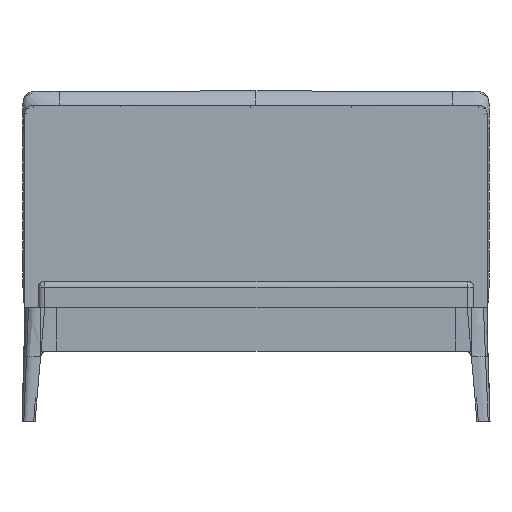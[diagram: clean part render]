
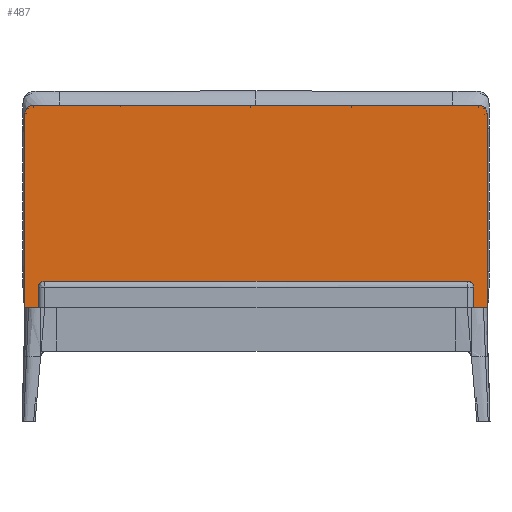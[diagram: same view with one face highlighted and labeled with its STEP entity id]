
A CAD part, front view. The second image highlights one B-rep face of the part: STEP entity #487.
In plain terms, the highlighted planar face has unit normal (0, -1, 0).
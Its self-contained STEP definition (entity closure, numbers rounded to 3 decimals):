
#487=ADVANCED_FACE('',(#1020),#7522,.T.);
#1020=FACE_OUTER_BOUND('',#1555,.T.);
#1555=EDGE_LOOP('',(#2912,#2913,#2914,#2915,#2916,#2917));
#2912=ORIENTED_EDGE('',*,*,#4764,.T.);
#2913=ORIENTED_EDGE('',*,*,#4719,.T.);
#2914=ORIENTED_EDGE('',*,*,#4715,.T.);
#2915=ORIENTED_EDGE('',*,*,#4761,.T.);
#2916=ORIENTED_EDGE('',*,*,#4744,.T.);
#2917=ORIENTED_EDGE('',*,*,#4747,.T.);
#4715=EDGE_CURVE('',#6890,#6889,#5498,.T.);
#4719=EDGE_CURVE('',#6891,#6890,#5502,.T.);
#4744=EDGE_CURVE('',#6907,#6909,#5516,.T.);
#4747=EDGE_CURVE('',#6909,#6910,#5519,.T.);
#4761=EDGE_CURVE('',#6889,#6907,#5982,.T.);
#4764=EDGE_CURVE('',#6910,#6891,#5985,.T.);
#5498=(
BOUNDED_CURVE()
B_SPLINE_CURVE(2,(#37031,#37032,#37033),.UNSPECIFIED.,.F.,.F.)
B_SPLINE_CURVE_WITH_KNOTS((3,3),(-12612.08,-11987.08),
 .UNSPECIFIED.)
CURVE()
GEOMETRIC_REPRESENTATION_ITEM()
RATIONAL_B_SPLINE_CURVE((1.,1.,1.))
REPRESENTATION_ITEM('')
);
#5502=(
BOUNDED_CURVE()
B_SPLINE_CURVE(2,(#37041,#37042,#37043),.UNSPECIFIED.,.F.,.F.)
B_SPLINE_CURVE_WITH_KNOTS((3,3),(-7600.81,-7561.54),
 .UNSPECIFIED.)
CURVE()
GEOMETRIC_REPRESENTATION_ITEM()
RATIONAL_B_SPLINE_CURVE((1.,0.707,1.))
REPRESENTATION_ITEM('')
);
#5516=(
BOUNDED_CURVE()
B_SPLINE_CURVE(2,(#37205,#37206,#37207),.UNSPECIFIED.,.F.,.F.)
B_SPLINE_CURVE_WITH_KNOTS((3,3),(-10101.08,-9476.08),
 .UNSPECIFIED.)
CURVE()
GEOMETRIC_REPRESENTATION_ITEM()
RATIONAL_B_SPLINE_CURVE((1.,1.,1.))
REPRESENTATION_ITEM('')
);
#5519=(
BOUNDED_CURVE()
B_SPLINE_CURVE(2,(#37213,#37214,#37215),.UNSPECIFIED.,.F.,.F.)
B_SPLINE_CURVE_WITH_KNOTS((3,3),(-9476.08,-9436.81),
 .UNSPECIFIED.)
CURVE()
GEOMETRIC_REPRESENTATION_ITEM()
RATIONAL_B_SPLINE_CURVE((1.,0.707,1.))
REPRESENTATION_ITEM('')
);
#5982=B_SPLINE_CURVE_WITH_KNOTS('',1,(#37260,#37261),.UNSPECIFIED.,.F.,
 .F.,(2,2),(0.,1486.),.UNSPECIFIED.);
#5985=B_SPLINE_CURVE_WITH_KNOTS('',1,(#37266,#37267),.UNSPECIFIED.,.F.,
 .F.,(2,2),(0.,1436.),.UNSPECIFIED.);
#6889=VERTEX_POINT('',#36967);
#6890=VERTEX_POINT('',#36968);
#6891=VERTEX_POINT('',#36969);
#6907=VERTEX_POINT('',#36985);
#6909=VERTEX_POINT('',#36987);
#6910=VERTEX_POINT('',#36988);
#7522=PLANE('',#7941);
#7941=AXIS2_PLACEMENT_3D('',#36953,#8291,$);
#8291=DIRECTION('',(0.,-1.,0.));
#36953=CARTESIAN_POINT('',(786.512,614.836,1080.));
#36967=CARTESIAN_POINT('',(-743.,614.836,365.));
#36968=CARTESIAN_POINT('',(-743.,614.836,990.));
#36969=CARTESIAN_POINT('',(-718.,614.836,1015.));
#36985=CARTESIAN_POINT('',(743.,614.836,365.));
#36987=CARTESIAN_POINT('',(743.,614.836,990.));
#36988=CARTESIAN_POINT('',(718.,614.836,1015.));
#37031=CARTESIAN_POINT('',(-743.,614.836,990.));
#37032=CARTESIAN_POINT('',(-743.,614.836,677.5));
#37033=CARTESIAN_POINT('',(-743.,614.836,365.));
#37041=CARTESIAN_POINT('',(-718.,614.836,1015.));
#37042=CARTESIAN_POINT('',(-743.,614.836,1015.));
#37043=CARTESIAN_POINT('',(-743.,614.836,990.));
#37205=CARTESIAN_POINT('',(743.,614.836,365.));
#37206=CARTESIAN_POINT('',(743.,614.836,677.5));
#37207=CARTESIAN_POINT('',(743.,614.836,990.));
#37213=CARTESIAN_POINT('',(743.,614.836,990.));
#37214=CARTESIAN_POINT('',(743.,614.836,1015.));
#37215=CARTESIAN_POINT('',(718.,614.836,1015.));
#37260=CARTESIAN_POINT('',(-743.,614.836,365.));
#37261=CARTESIAN_POINT('',(743.,614.836,365.));
#37266=CARTESIAN_POINT('',(718.,614.836,1015.));
#37267=CARTESIAN_POINT('',(-718.,614.836,1015.));
